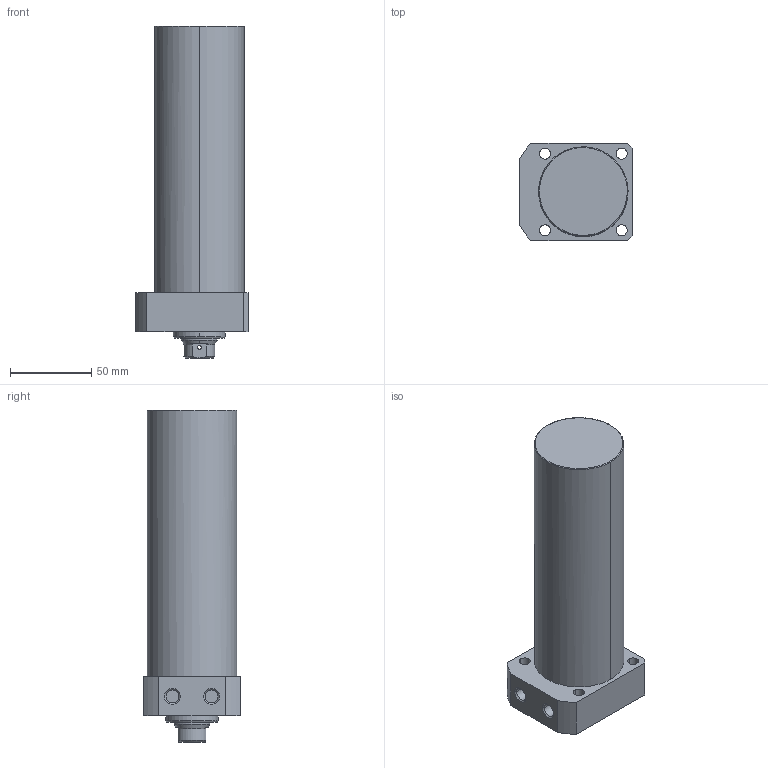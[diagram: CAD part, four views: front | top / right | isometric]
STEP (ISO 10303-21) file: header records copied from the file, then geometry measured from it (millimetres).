
FILE_DESCRIPTION((' '),'2;1');
FILE_NAME( 'TLLR-055CB-135.STEP.stp', '2025-10-24T16:34:46', (' '), ('--- Datakit www.datakit.com---'), ' Datakit CrossCadWare V2024.1 Dec 21 2023', 'Mastercam 2025', ' ');
FILE_SCHEMA(('AUTOMOTIVE_DESIGN { 1 0 10303 214 1 1 1 1 }'));
Length unit declared in the file: millimetre
Products named in the file (1): TLLR-055CB-135
Bounding box: 69 x 60 x 204 mm (x, y, z)
Volume: 487221.3 mm3; surface area: 46672.6 mm2
Topology: 1 solids, 1 shells, 67 faces, 197 edges, 136 vertices
Faces by surface type: cylinder 32, plane 19, cone 14, torus 2
Entity records: 3058 total; most frequent: CARTESIAN_POINT 1139, DIRECTION 426, ORIENTED_EDGE 390, EDGE_CURVE 195, AXIS2_PLACEMENT_3D 179, VERTEX_POINT 136, CIRCLE 111, EDGE_LOOP 85
